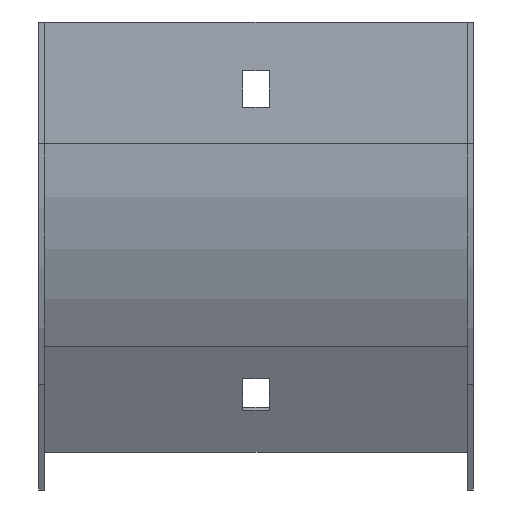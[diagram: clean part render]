
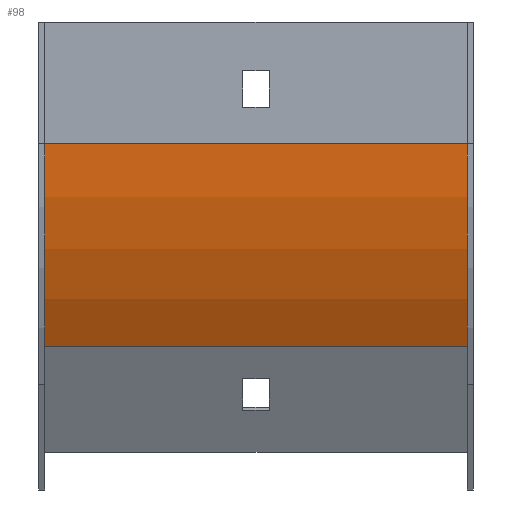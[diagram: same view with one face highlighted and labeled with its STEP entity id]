
A CAD part, front view. The second image highlights one B-rep face of the part: STEP entity #98.
In plain terms, the highlighted cylindrical face has radius 100 mm (diameter 200 mm), a partial arc.
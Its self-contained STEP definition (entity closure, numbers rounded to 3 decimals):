
#98 = ADVANCED_FACE ( 'NONE', ( #120 ), #584, .T. ) ;
#102 = CIRCLE ( 'NONE', #322, 100. ) ;
#117 = ORIENTED_EDGE ( 'NONE', *, *, #806, .T. ) ;
#120 = FACE_OUTER_BOUND ( 'NONE', #751, .T. ) ;
#132 = CARTESIAN_POINT ( 'NONE',  ( -52., 11.897, -80. ) ) ;
#176 = CARTESIAN_POINT ( 'NONE',  ( -52., -1.5, -30. ) ) ;
#200 = CARTESIAN_POINT ( 'NONE',  ( -52., 98.5, -30. ) ) ;
#223 = CARTESIAN_POINT ( 'NONE',  ( 53.5, -1.5, -30. ) ) ;
#235 = CIRCLE ( 'NONE', #332, 100. ) ;
#240 = DIRECTION ( 'NONE',  ( 0., 0., -1. ) ) ;
#250 = AXIS2_PLACEMENT_3D ( 'NONE', #514, #782, #383 ) ;
#266 = VERTEX_POINT ( 'NONE', #638 ) ;
#282 = VERTEX_POINT ( 'NONE', #176 ) ;
#302 = VERTEX_POINT ( 'NONE', #315 ) ;
#315 = CARTESIAN_POINT ( 'NONE',  ( 52., -1.5, -30. ) ) ;
#316 = CARTESIAN_POINT ( 'NONE',  ( 52., 98.5, -30. ) ) ;
#322 = AXIS2_PLACEMENT_3D ( 'NONE', #316, #448, #240 ) ;
#332 = AXIS2_PLACEMENT_3D ( 'NONE', #200, #397, #402 ) ;
#360 = DIRECTION ( 'NONE',  ( -1., 0., 0. ) ) ;
#383 = DIRECTION ( 'NONE',  ( 0., 0., 1. ) ) ;
#397 = DIRECTION ( 'NONE',  ( -1., 0., 0. ) ) ;
#399 = EDGE_CURVE ( 'NONE', #266, #550, #699, .T. ) ;
#402 = DIRECTION ( 'NONE',  ( 0., 0., -1. ) ) ;
#448 = DIRECTION ( 'NONE',  ( -1., 0., 0. ) ) ;
#501 = DIRECTION ( 'NONE',  ( -1., 0., 0. ) ) ;
#514 = CARTESIAN_POINT ( 'NONE',  ( 53.5, 98.5, -30. ) ) ;
#516 = CARTESIAN_POINT ( 'NONE',  ( 53.5, 11.897, -80. ) ) ;
#536 = VECTOR ( 'NONE', #360, 1000. ) ;
#541 = ORIENTED_EDGE ( 'NONE', *, *, #552, .F. ) ;
#550 = VERTEX_POINT ( 'NONE', #132 ) ;
#552 = EDGE_CURVE ( 'NONE', #550, #282, #235, .T. ) ;
#584 = CYLINDRICAL_SURFACE ( 'NONE', #250, 100. ) ;
#638 = CARTESIAN_POINT ( 'NONE',  ( 52., 11.897, -80. ) ) ;
#680 = EDGE_CURVE ( 'NONE', #302, #282, #764, .T. ) ;
#685 = ORIENTED_EDGE ( 'NONE', *, *, #399, .F. ) ;
#699 = LINE ( 'NONE', #516, #536 ) ;
#745 = VECTOR ( 'NONE', #501, 1000. ) ;
#751 = EDGE_LOOP ( 'NONE', ( #541, #685, #117, #809 ) ) ;
#764 = LINE ( 'NONE', #223, #745 ) ;
#782 = DIRECTION ( 'NONE',  ( -1., 0., 0. ) ) ;
#806 = EDGE_CURVE ( 'NONE', #266, #302, #102, .T. ) ;
#809 = ORIENTED_EDGE ( 'NONE', *, *, #680, .T. ) ;
